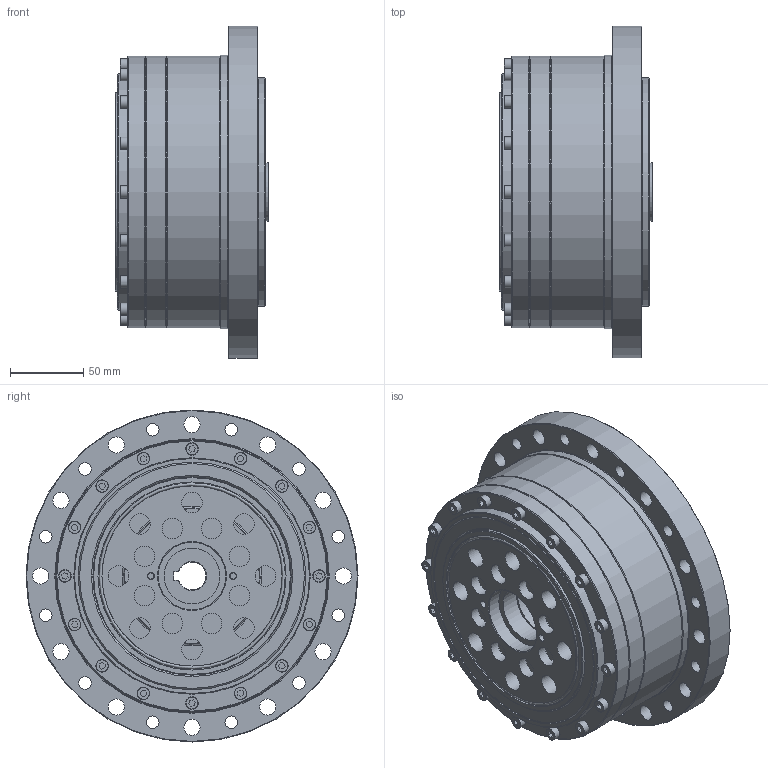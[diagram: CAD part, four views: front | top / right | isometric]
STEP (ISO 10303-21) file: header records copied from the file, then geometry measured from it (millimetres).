
FILE_DESCRIPTION (( 'STEP AP214' ), '1' );
FILE_NAME ('FCG-58-XXX-AO.STEP', '2025-04-08T11:38:48', ( '微软用户' ), ( '微软中国' ), 'SwSTEP 2.0', 'SolidWorks 2016', '' );
FILE_SCHEMA (( 'AUTOMOTIVE_DESIGN' ));
Length unit declared in the file: millimetre
Products named in the file (1): FCG-58-XXX-AO
Bounding box: 104.5 x 226 x 226 mm (x, y, z)
Volume: 1943979.5 mm3; surface area: 621944 mm2
Topology: 71 solids, 72 shells, 954 faces, 2225 edges, 1438 vertices
Faces by surface type: plane 452, cylinder 287, cone 121, torus 67, sphere 23, bspline 4
Full cylindrical faces by diameter (mm): 2.5 x2, 5 x38, 6.6 x16, 6.8 x2, 8.5 x28, 11 x12, 14 x16, 15.5 x8, 16 x8, 17.5 x8, 24 x8, 37.5 x1, 38 x2, 40 x3, 41 x3, 46 x4, 60 x2, 92.8 x1, 96 x3, 103.71 x1, 111.07 x2, 113 x1, 120 x1, 122.6 x1, 126 x1, 128 x1, 133 x1, 135 x3, 135.24 x2, 138.6 x2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
Entity records: 38523 total; most frequent: CARTESIAN_POINT 7064, DIRECTION 4344, ORIENTED_EDGE 3398, AXIS2_PLACEMENT_3D 1794, EDGE_CURVE 1699, EDGE_LOOP 1558, VERTEX_POINT 1307, FACE_OUTER_BOUND 1202
